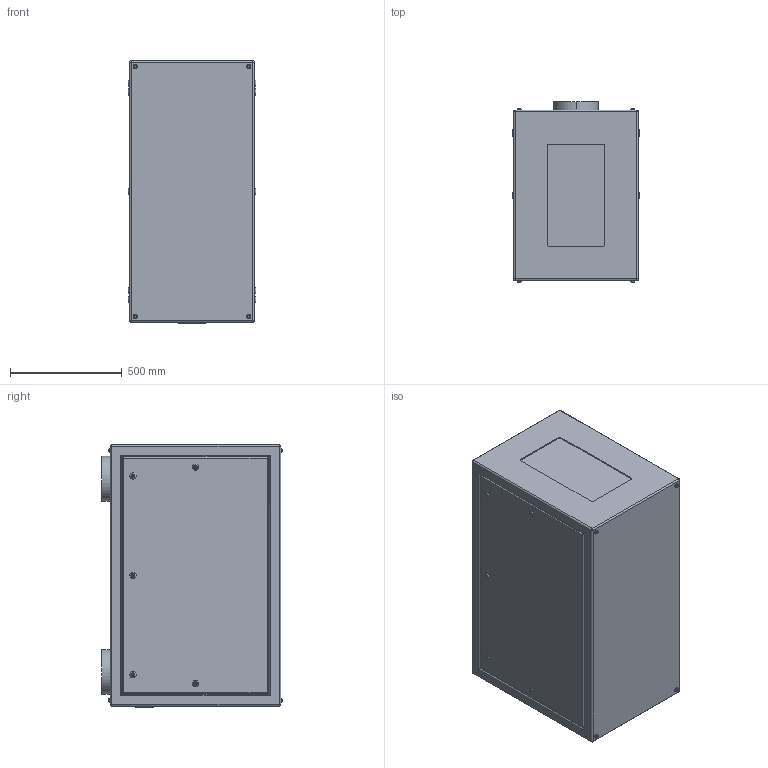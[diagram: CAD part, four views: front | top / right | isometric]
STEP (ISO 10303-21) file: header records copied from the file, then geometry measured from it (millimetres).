
FILE_DESCRIPTION (( 'STEP AP214' ), '1' );
FILE_NAME ('Tacit 56.204.P R08.STEP', '2022-09-11T22:33:43', ( '' ), ( '' ), 'SwSTEP 2.0', 'SolidWorks 2020', '' );
FILE_SCHEMA (( 'AUTOMOTIVE_DESIGN' ));
Length unit declared in the file: inch
Products named in the file (1): Tacit 56.204.P R08
Bounding box: 571.5 x 807.36 x 1173.48 mm (x, y, z)
Volume: 496230896.5 mm3; surface area: 4264516 mm2
Topology: 1 solids, 5 shells, 409 faces, 900 edges, 564 vertices
Faces by surface type: cylinder 180, plane 169, torus 52, sphere 8
Entity records: 15817 total; most frequent: CARTESIAN_POINT 2298, DIRECTION 2048, ORIENTED_EDGE 1784, EDGE_CURVE 892, AXIS2_PLACEMENT_3D 826, VERTEX_POINT 564, EDGE_LOOP 480, CIRCLE 416
